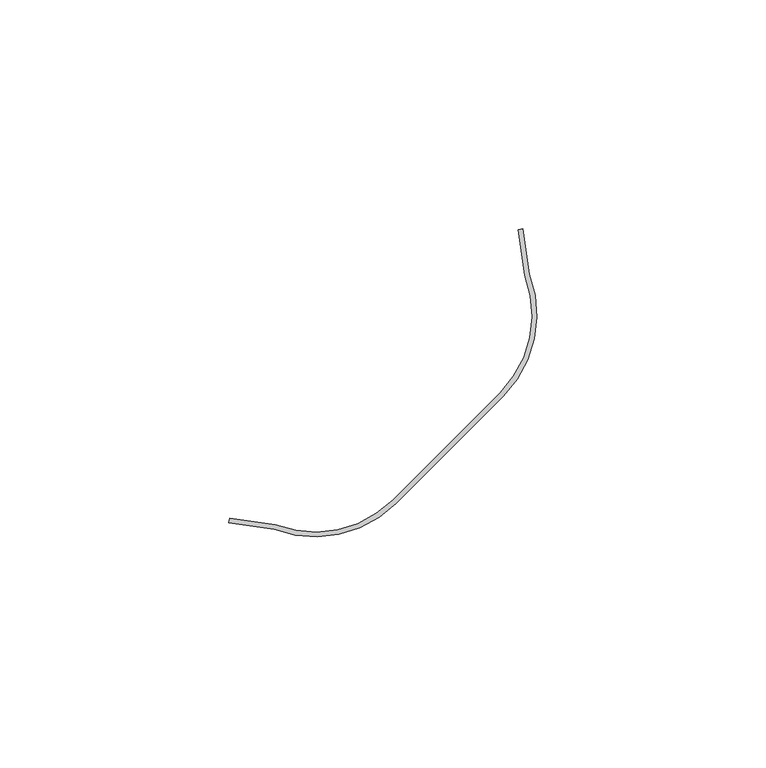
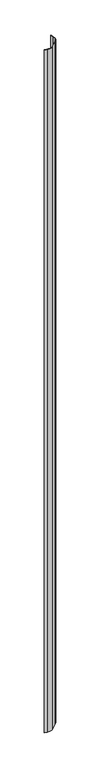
"""IFC4 building model written with IfcOpenShell, lengths in millimetres: proxy geometry, Angle Rentrant V : Angle Rentrant V."""

from ifc_helpers import new_model, si_unit, point, frame_2d, origin, origin_with_axes, place, context, project, spatial, polyline, circle_curve, trimmed, segment, composite_curve, outline, extrude, source, transform, mapped, element, save


def generic_models_79ab70e4(model_context):
    return source(origin(), model_context, "Body", "SweptSolid", [
        extrude(outline(composite_curve([segment(trimmed(circle_curve(frame_2d((-25.0, 48.4193766)), 25.0), [point((-1.6392422, 57.3230271))], [point((-7.3223305, 30.7417071))], False, "CARTESIAN"), True, "CONTINUOUS"), segment(polyline([(-7.3223305, 30.7417071), (-30.7417071, 7.3223305)]), True, "CONTINUOUS"), segment(trimmed(circle_curve(frame_2d((-48.4193766, 25.0)), 25.0), [point((-30.7417071, 7.3223305))], [point((-57.3230271, 1.6392422))], False, "CARTESIAN"), True, "CONTINUOUS"), segment(polyline([(-57.3230271, 1.6392422), (-67.2233179, 3.0306373), (-67.0841448, 4.0209054), (-57.0710662, 2.6136589)]), True, "CONTINUOUS"), segment(trimmed(circle_curve(frame_2d((-48.4193766, 25.0)), 24.0), [point((-57.0710662, 2.6136589))], [point((-31.4488138, 8.0294373))], True, "CARTESIAN"), True, "CONTINUOUS"), segment(polyline([(-31.4488138, 8.0294373), (-8.0294373, 31.4488138)]), True, "CONTINUOUS"), segment(trimmed(circle_curve(frame_2d((-25.0, 48.4193766)), 24.0), [point((-8.0294373, 31.4488138))], [point((-2.6136589, 57.0710662))], True, "CARTESIAN"), True, "CONTINUOUS"), segment(polyline([(-2.6136589, 57.0710662), (-4.0209054, 67.0841448), (-3.0306373, 67.2233179), (-1.6392422, 57.3230271)]), True, "CONTINUOUS")], self_intersect=False)), origin_with_axes(), (0.0, 0.0, 1.0), 2850.0),
    ])


if __name__ == "__main__":
    model = new_model("IFC4")
    model_context = context("Model", 3, world=origin())
    ifc_project = project(units=[si_unit("LENGTHUNIT", "METRE", prefix="MILLI")], contexts=[model_context])
    site = spatial("IfcSite", under=ifc_project)
    building = spatial("IfcBuilding", under=site)
    placement = place(None, origin())
    generic_models_shape = generic_models_79ab70e4(model_context)
    element("IfcBuildingElementProxy", 1, Name="Angle Rentrant V : Angle Rentrant V", ObjectType="Angle Rentrant V : Angle Rentrant V", at=placement, inside=building, context=model_context, shape_type="MappedRepresentation", body=[
        mapped(generic_models_shape, transform((0.0, 0.0, 0.0), x_axis=(1.0, 0.0, 0.0), y_axis=(0.0, 1.0, 0.0), z_axis=(0.0, 0.0, 1.0))),
    ])
    save(model, "model.ifc")
